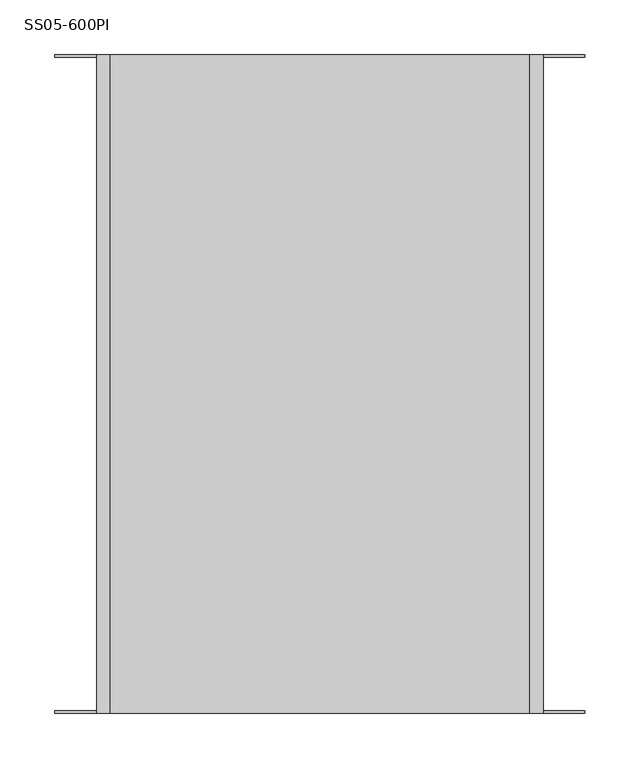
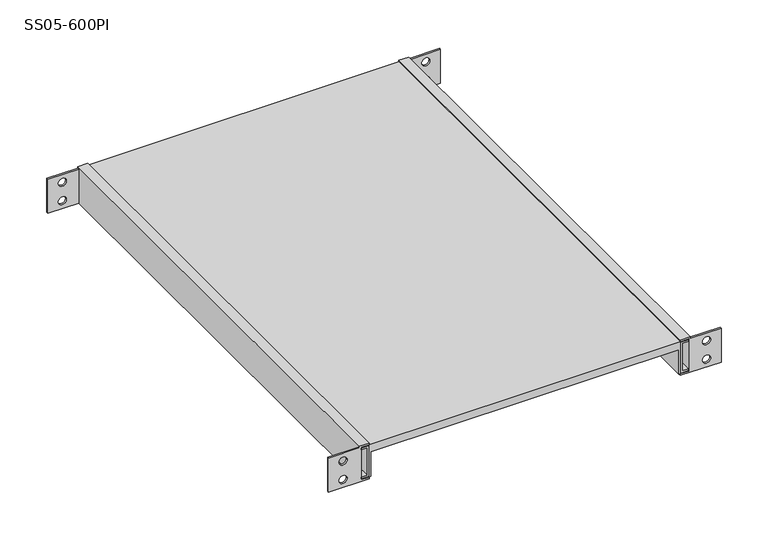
"""IFC4 building model written with IfcOpenShell, lengths in millimetres: proxy geometry, Полки выдвижные : SS05-600PI."""

from ifc_helpers import new_model, si_unit, frame, origin, place, context, project, spatial, polyline, circle_curve, outline, extrude, source, transform, mapped, element, save
from ifc_brep_helpers import plane_surface, revolved_surface, advanced_brep


def ss05_600pi_b2c20814(model_context):
    return source(origin(), model_context, "Body", "SolidModel", [
        extrude(outline(polyline([(44.0, 191.5), (44.0, -191.5), (2.0, -191.5), (2.0, -189.4739095), (34.0, -189.4739095), (34.0, 189.4778277), (2.0, 189.4778277), (2.0, 191.5), (44.0, 191.5)])), frame((0.0, -300.0, 0.0), z_axis=(0.0, 1.0, 0.0), x_axis=(0.0, 0.0, 1.0)), (0.0, 0.0, 1.0), 600.0),
        extrude(outline(polyline([(2.9820525, -191.8921581), (43.0432121, -191.8921581), (43.0432121, -201.5), (41.0432121, -201.5), (41.0432121, -193.8921581), (4.9820525, -193.8921581), (4.9820525, -201.5), (2.9820525, -201.5), (2.9820525, -191.8921581)])), frame((0.0, -300.0, 0.0), z_axis=(0.0, 1.0, 0.0), x_axis=(0.0, 0.0, 1.0)), (0.0, 0.0, 1.0), 600.0),
        extrude(outline(polyline([(2.9820525, 191.8921581), (2.9820525, 201.5), (4.9820525, 201.5), (4.9820525, 193.8921581), (41.0432121, 193.8921581), (41.0432121, 201.5), (43.0432121, 201.5), (43.0432121, 191.8921581), (2.9820525, 191.8921581)])), frame((0.0, -300.0, 0.0), z_axis=(0.0, 1.0, 0.0), x_axis=(0.0, 0.0, 1.0)), (0.0, 0.0, 1.0), 600.0),
        advanced_brep(
        [(-241.5, 298.0, 44.0), (-203.5, 298.0, 44.0), (-203.5, 300.0, 44.0), (-241.5, 300.0, 44.0), (-203.5, -298.0, 44.0), (-241.5, -298.0, 44.0), (-241.5, -300.0, 44.0), (-203.5, -300.0, 44.0), (-241.5, 298.0, 0.0), (-241.5, 300.0, 0.0), (-191.5, 300.0, 0.0), (-191.5, -300.0, 0.0), (-241.5, -300.0, 0.0), (-241.5, -298.0, 0.0), (-203.5, -298.0, 0.0), (-203.5, 298.0, 0.0), (-218.6086696, 298.0, 34.0), (-228.6086696, 298.0, 34.0), (-218.6086696, 298.0, 10.0), (-228.6086696, 298.0, 10.0), (-203.5, 300.0, 46.0), (-191.5, 300.0, 46.0), (-191.5, 300.0, 44.0), (-201.5, 300.0, 44.0), (-201.5, 300.0, 2.0), (-191.5, 300.0, 2.0), (-228.6086696, 300.0, 34.0), (-218.6086696, 300.0, 34.0), (-228.6086696, 300.0, 10.0), (-218.6086696, 300.0, 10.0), (-228.6086696, -298.0, 34.0), (-218.6086696, -298.0, 34.0), (-228.6086696, -298.0, 10.0), (-218.6086696, -298.0, 10.0), (-191.5, -300.0, 2.0), (-201.5, -300.0, 2.0), (-201.5, -300.0, 44.0), (-191.5, -300.0, 44.0), (-191.5, -300.0, 46.0), (-203.5, -300.0, 46.0), (-218.6086696, -300.0, 34.0), (-228.6086696, -300.0, 34.0), (-218.6086696, -300.0, 10.0), (-228.6086696, -300.0, 10.0)],
        [
            (0, 1),
            (1, 2),
            (2, 3),
            (3, 0),
            (4, 5),
            (5, 6),
            (6, 7),
            (7, 4),
            (8, 9),
            (9, 10),
            (10, 11),
            (11, 12),
            (12, 13),
            (13, 14),
            (14, 15),
            (15, 8),
            (0, 8),
            (15, 1),
            (16, 17, circle_curve(frame((-223.6086696, 298.0, 34.0), z_axis=(0.0, 1.0, 0.0), x_axis=(1.0, 0.0, 0.0)), 5.0)),
            (17, 16, circle_curve(frame((-223.6086696, 298.0, 34.0), z_axis=(0.0, 1.0, 0.0), x_axis=(1.0, 0.0, 0.0)), 5.0)),
            (18, 19, circle_curve(frame((-223.6086696, 298.0, 10.0), z_axis=(0.0, 1.0, 0.0), x_axis=(1.0, 0.0, 0.0)), 5.0)),
            (19, 18, circle_curve(frame((-223.6086696, 298.0, 10.0), z_axis=(0.0, 1.0, 0.0), x_axis=(1.0, 0.0, 0.0)), 5.0)),
            (2, 20),
            (20, 21),
            (21, 22),
            (22, 23),
            (23, 24),
            (24, 25),
            (25, 10),
            (9, 3),
            (26, 27, circle_curve(frame((-223.6086696, 300.0, 34.0), z_axis=(0.0, -1.0, 0.0), x_axis=(1.0, 0.0, 0.0)), 5.0)),
            (27, 26, circle_curve(frame((-223.6086696, 300.0, 34.0), z_axis=(0.0, -1.0, 0.0), x_axis=(1.0, 0.0, 0.0)), 5.0)),
            (28, 29, circle_curve(frame((-223.6086696, 300.0, 10.0), z_axis=(0.0, -1.0, 0.0), x_axis=(1.0, 0.0, 0.0)), 5.0)),
            (29, 28, circle_curve(frame((-223.6086696, 300.0, 10.0), z_axis=(0.0, -1.0, 0.0), x_axis=(1.0, 0.0, 0.0)), 5.0)),
            (4, 14),
            (13, 5),
            (30, 31, circle_curve(frame((-223.6086696, -298.0, 34.0), z_axis=(0.0, -1.0, 0.0), x_axis=(1.0, 0.0, 0.0)), 5.0)),
            (31, 30, circle_curve(frame((-223.6086696, -298.0, 34.0), z_axis=(0.0, -1.0, 0.0), x_axis=(1.0, 0.0, 0.0)), 5.0)),
            (32, 33, circle_curve(frame((-223.6086696, -298.0, 10.0), z_axis=(0.0, -1.0, 0.0), x_axis=(1.0, 0.0, 0.0)), 5.0)),
            (33, 32, circle_curve(frame((-223.6086696, -298.0, 10.0), z_axis=(0.0, -1.0, 0.0), x_axis=(1.0, 0.0, 0.0)), 5.0)),
            (12, 6),
            (11, 34),
            (34, 35),
            (35, 36),
            (36, 37),
            (37, 38),
            (38, 39),
            (39, 7),
            (40, 41, circle_curve(frame((-223.6086696, -300.0, 34.0), z_axis=(0.0, 1.0, 0.0), x_axis=(1.0, 0.0, 0.0)), 5.0)),
            (41, 40, circle_curve(frame((-223.6086696, -300.0, 34.0), z_axis=(0.0, 1.0, 0.0), x_axis=(1.0, 0.0, 0.0)), 5.0)),
            (42, 43, circle_curve(frame((-223.6086696, -300.0, 10.0), z_axis=(0.0, 1.0, 0.0), x_axis=(1.0, 0.0, 0.0)), 5.0)),
            (43, 42, circle_curve(frame((-223.6086696, -300.0, 10.0), z_axis=(0.0, 1.0, 0.0), x_axis=(1.0, 0.0, 0.0)), 5.0)),
            (37, 22),
            (21, 38),
            (20, 39),
            (25, 34),
            (24, 35),
            (23, 36),
            (26, 17),
            (16, 27),
            (30, 41),
            (40, 31),
            (28, 19),
            (18, 29),
            (32, 43),
            (42, 33),
        ],
        [
            plane_surface(frame((-203.5, 298.0, 44.0), z_axis=(0.0, 0.0, 1.0), x_axis=(1.0, 0.0, 0.0))),
            plane_surface(frame((-203.5, 298.0, 0.0), z_axis=(0.0, 0.0, -1.0), x_axis=(-1.0, 0.0, 0.0))),
            plane_surface(frame((-241.5, 298.0, 44.0), z_axis=(0.0, -1.0, 0.0), x_axis=(0.0, 0.0, -1.0))),
            plane_surface(frame((-203.5, 300.0, 44.0), z_axis=(0.0, 1.0, 0.0), x_axis=(0.0, 0.0, -1.0))),
            plane_surface(frame((-241.5, 300.0, 44.0), z_axis=(-1.0, 0.0, 0.0), x_axis=(0.0, 0.0, -1.0))),
            plane_surface(frame((-203.5, -298.0, 44.0), z_axis=(0.0, 1.0, 0.0), x_axis=(0.0, 0.0, -1.0))),
            plane_surface(frame((-241.5, -298.0, 44.0), z_axis=(-1.0, 0.0, 0.0), x_axis=(0.0, 0.0, -1.0))),
            plane_surface(frame((-241.5, -300.0, 44.0), z_axis=(0.0, -1.0, 0.0), x_axis=(0.0, 0.0, -1.0))),
            plane_surface(frame((-191.5, -300.0, 44.0), z_axis=(1.0, 0.0, 0.0), x_axis=(0.0, 1.0, 0.0))),
            plane_surface(frame((-191.5, -300.0, 46.0), z_axis=(0.0, 0.0, 1.0), x_axis=(0.0, 1.0, 0.0))),
            plane_surface(frame((-203.5, -300.0, 46.0), z_axis=(-1.0, 0.0, 0.0), x_axis=(0.0, 1.0, 0.0))),
            plane_surface(frame((-191.5, -300.0, 0.0), z_axis=(1.0, 0.0, 0.0), x_axis=(0.0, 1.0, 0.0))),
            plane_surface(frame((-191.5, -300.0, 2.0), z_axis=(0.0, 0.0, 1.0), x_axis=(0.0, 1.0, 0.0))),
            plane_surface(frame((-201.5, -300.0, 2.0), z_axis=(1.0, 0.0, 0.0), x_axis=(0.0, 1.0, 0.0))),
            plane_surface(frame((-201.5, -300.0, 44.0), z_axis=(0.0, 0.0, -1.0), x_axis=(0.0, 1.0, 0.0))),
            revolved_surface(polyline([(-218.6086696, 298.0, 34.0), (-218.6086696, 300.0, 34.0)]), (-223.6086696, 300.0, 34.0), (0.0, -1.0, 0.0)),
            revolved_surface(polyline([(-218.6086696, -300.0, 34.0), (-218.6086696, -298.0, 34.0)]), (-223.6086696, 300.0, 34.0), (0.0, -1.0, 0.0)),
            revolved_surface(polyline([(-218.6086696, 298.0, 10.0), (-218.6086696, 300.0, 10.0)]), (-223.6086696, 0.0, 10.0), (0.0, -1.0, 0.0)),
            revolved_surface(polyline([(-218.6086696, -300.0, 10.0), (-218.6086696, -298.0, 10.0)]), (-223.6086696, 0.0, 10.0), (0.0, -1.0, 0.0)),
        ],
        [
            (0, [[1, 2, 3, 4]]),
            (0, [[5, 6, 7, 8]]),
            (1, [[9, 10, 11, 12, 13, 14, 15, 16]]),
            (2, [[-1, 17, -16, 18], [19, 20], [21, 22]]),
            (3, [[-3, 23, 24, 25, 26, 27, 28, 29, -10, 30], [31, 32], [33, 34]]),
            (4, [[-4, -30, -9, -17]]),
            (5, [[-5, 35, -14, 36], [37, 38], [39, 40]]),
            (6, [[-6, -36, -13, 41]]),
            (7, [[-7, -41, -12, 42, 43, 44, 45, 46, 47, 48], [49, 50], [51, 52]]),
            (8, [[-46, 53, -25, 54]]),
            (9, [[-47, -54, -24, 55]]),
            (10, [[-55, -23, -2, -18, -15, -35, -8, -48]]),
            (11, [[-42, -11, -29, 56]]),
            (12, [[-43, -56, -28, 57]]),
            (13, [[-44, -57, -27, 58]]),
            (14, [[-45, -58, -26, -53]]),
            (15, [[59, -19, 60, -31]]),
            (16, [[61, -49, 62, -37]]),
            (15, [[-59, -32, -60, -20]]),
            (16, [[-61, -38, -62, -50]]),
            (17, [[63, -21, 64, -33]]),
            (18, [[65, -51, 66, -39]]),
            (17, [[-63, -34, -64, -22]]),
            (18, [[-65, -40, -66, -52]]),
        ],
    ),
        advanced_brep(
        [(241.5, -298.0, 44.0), (203.5, -298.0, 44.0), (203.5, -300.0, 44.0), (241.5, -300.0, 44.0), (241.5, 300.0, 44.0), (203.5, 300.0, 44.0), (203.5, 298.0, 44.0), (241.5, 298.0, 44.0), (241.5, -298.0, 0.0), (241.5, -300.0, 0.0), (191.5, -300.0, 0.0), (191.5, 300.0, 0.0), (241.5, 300.0, 0.0), (241.5, 298.0, 0.0), (203.5, 298.0, 0.0), (203.5, -298.0, 0.0), (191.5, 300.0, 2.0), (201.5, 300.0, 2.0), (201.5, 300.0, 44.0), (191.5, 300.0, 44.0), (191.5, 300.0, 46.0), (203.5, 300.0, 46.0), (218.6086696, 300.0, 34.0), (228.6086696, 300.0, 34.0), (218.6086696, 300.0, 10.0), (228.6086696, 300.0, 10.0), (203.5, -300.0, 46.0), (191.5, -300.0, 46.0), (191.5, -300.0, 44.0), (201.5, -300.0, 44.0), (201.5, -300.0, 2.0), (191.5, -300.0, 2.0), (228.6086696, -300.0, 34.0), (218.6086696, -300.0, 34.0), (228.6086696, -300.0, 10.0), (218.6086696, -300.0, 10.0), (218.6086696, -298.0, 34.0), (228.6086696, -298.0, 34.0), (218.6086696, -298.0, 10.0), (228.6086696, -298.0, 10.0), (228.6086696, 298.0, 34.0), (218.6086696, 298.0, 34.0), (228.6086696, 298.0, 10.0), (218.6086696, 298.0, 10.0)],
        [
            (0, 1),
            (1, 2),
            (2, 3),
            (3, 0),
            (4, 5),
            (5, 6),
            (6, 7),
            (7, 4),
            (8, 9),
            (9, 10),
            (10, 11),
            (11, 12),
            (12, 13),
            (13, 14),
            (14, 15),
            (15, 8),
            (4, 12),
            (11, 16),
            (16, 17),
            (17, 18),
            (18, 19),
            (19, 20),
            (20, 21),
            (21, 5),
            (22, 23, circle_curve(frame((223.6086696, 300.0, 34.0), z_axis=(0.0, -1.0, 0.0), x_axis=(1.0, 0.0, 0.0)), 5.0)),
            (23, 22, circle_curve(frame((223.6086696, 300.0, 34.0), z_axis=(0.0, -1.0, 0.0), x_axis=(1.0, 0.0, 0.0)), 5.0)),
            (24, 25, circle_curve(frame((223.6086696, 300.0, 10.0), z_axis=(0.0, -1.0, 0.0), x_axis=(1.0, 0.0, 0.0)), 5.0)),
            (25, 24, circle_curve(frame((223.6086696, 300.0, 10.0), z_axis=(0.0, -1.0, 0.0), x_axis=(1.0, 0.0, 0.0)), 5.0)),
            (2, 26),
            (26, 27),
            (27, 28),
            (28, 29),
            (29, 30),
            (30, 31),
            (31, 10),
            (9, 3),
            (32, 33, circle_curve(frame((223.6086696, -300.0, 34.0), z_axis=(0.0, 1.0, 0.0), x_axis=(1.0, 0.0, 0.0)), 5.0)),
            (33, 32, circle_curve(frame((223.6086696, -300.0, 34.0), z_axis=(0.0, 1.0, 0.0), x_axis=(1.0, 0.0, 0.0)), 5.0)),
            (34, 35, circle_curve(frame((223.6086696, -300.0, 10.0), z_axis=(0.0, 1.0, 0.0), x_axis=(1.0, 0.0, 0.0)), 5.0)),
            (35, 34, circle_curve(frame((223.6086696, -300.0, 10.0), z_axis=(0.0, 1.0, 0.0), x_axis=(1.0, 0.0, 0.0)), 5.0)),
            (0, 8),
            (15, 1),
            (36, 37, circle_curve(frame((223.6086696, -298.0, 34.0), z_axis=(0.0, -1.0, 0.0), x_axis=(1.0, 0.0, 0.0)), 5.0)),
            (37, 36, circle_curve(frame((223.6086696, -298.0, 34.0), z_axis=(0.0, -1.0, 0.0), x_axis=(1.0, 0.0, 0.0)), 5.0)),
            (38, 39, circle_curve(frame((223.6086696, -298.0, 10.0), z_axis=(0.0, -1.0, 0.0), x_axis=(1.0, 0.0, 0.0)), 5.0)),
            (39, 38, circle_curve(frame((223.6086696, -298.0, 10.0), z_axis=(0.0, -1.0, 0.0), x_axis=(1.0, 0.0, 0.0)), 5.0)),
            (6, 14),
            (13, 7),
            (40, 41, circle_curve(frame((223.6086696, 298.0, 34.0), z_axis=(0.0, 1.0, 0.0), x_axis=(1.0, 0.0, 0.0)), 5.0)),
            (41, 40, circle_curve(frame((223.6086696, 298.0, 34.0), z_axis=(0.0, 1.0, 0.0), x_axis=(1.0, 0.0, 0.0)), 5.0)),
            (42, 43, circle_curve(frame((223.6086696, 298.0, 10.0), z_axis=(0.0, 1.0, 0.0), x_axis=(1.0, 0.0, 0.0)), 5.0)),
            (43, 42, circle_curve(frame((223.6086696, 298.0, 10.0), z_axis=(0.0, 1.0, 0.0), x_axis=(1.0, 0.0, 0.0)), 5.0)),
            (28, 19),
            (18, 29),
            (17, 30),
            (16, 31),
            (21, 26),
            (20, 27),
            (36, 33),
            (32, 37),
            (22, 41),
            (40, 23),
            (38, 35),
            (34, 39),
            (24, 43),
            (42, 25),
        ],
        [
            plane_surface(frame((-203.5, 298.0, 44.0), z_axis=(0.0, 0.0, 1.0), x_axis=(1.0, 0.0, 0.0))),
            plane_surface(frame((-203.5, 298.0, 0.0), z_axis=(0.0, 0.0, -1.0), x_axis=(-1.0, 0.0, 0.0))),
            plane_surface(frame((-203.5, 300.0, 44.0), z_axis=(0.0, 1.0, 0.0), x_axis=(0.0, 0.0, -1.0))),
            plane_surface(frame((-241.5, -300.0, 44.0), z_axis=(0.0, -1.0, 0.0), x_axis=(0.0, 0.0, -1.0))),
            plane_surface(frame((241.5, -298.0, 44.0), z_axis=(0.0, 1.0, 0.0), x_axis=(0.0, 0.0, -1.0))),
            plane_surface(frame((241.5, -300.0, 44.0), z_axis=(1.0, 0.0, 0.0), x_axis=(0.0, 0.0, -1.0))),
            plane_surface(frame((203.5, 298.0, 44.0), z_axis=(0.0, -1.0, 0.0), x_axis=(0.0, 0.0, -1.0))),
            plane_surface(frame((241.5, 298.0, 44.0), z_axis=(1.0, 0.0, 0.0), x_axis=(0.0, 0.0, -1.0))),
            plane_surface(frame((191.5, -300.0, 44.0), z_axis=(0.0, 0.0, -1.0), x_axis=(0.0, 1.0, 0.0))),
            plane_surface(frame((201.5, -300.0, 44.0), z_axis=(-1.0, 0.0, 0.0), x_axis=(0.0, 1.0, 0.0))),
            plane_surface(frame((201.5, -300.0, 2.0), z_axis=(0.0, 0.0, 1.0), x_axis=(0.0, 1.0, 0.0))),
            plane_surface(frame((191.5, -300.0, 2.0), z_axis=(-1.0, 0.0, 0.0), x_axis=(0.0, 1.0, 0.0))),
            plane_surface(frame((203.5, -300.0, 0.0), z_axis=(1.0, 0.0, 0.0), x_axis=(0.0, 1.0, 0.0))),
            plane_surface(frame((203.5, -300.0, 46.0), z_axis=(0.0, 0.0, 1.0), x_axis=(0.0, 1.0, 0.0))),
            plane_surface(frame((191.5, -300.0, 46.0), z_axis=(-1.0, 0.0, 0.0), x_axis=(0.0, 1.0, 0.0))),
            revolved_surface(polyline([(228.6086696, -300.0, 34.0), (228.6086696, -298.0, 34.0)]), (223.6086696, 0.0, 34.0), (0.0, -1.0, 0.0)),
            revolved_surface(polyline([(228.6086696, 298.0, 34.0), (228.6086696, 300.0, 34.0)]), (223.6086696, 0.0, 34.0), (0.0, -1.0, 0.0)),
            revolved_surface(polyline([(228.6086696, -300.0, 10.0), (228.6086696, -298.0, 10.0)]), (223.6086696, 0.0, 10.0), (0.0, -1.0, 0.0)),
            revolved_surface(polyline([(228.6086696, 298.0, 10.0), (228.6086696, 300.0, 10.0)]), (223.6086696, 0.0, 10.0), (0.0, -1.0, 0.0)),
        ],
        [
            (0, [[1, 2, 3, 4]]),
            (0, [[5, 6, 7, 8]]),
            (1, [[9, 10, 11, 12, 13, 14, 15, 16]]),
            (2, [[-5, 17, -12, 18, 19, 20, 21, 22, 23, 24], [25, 26], [27, 28]]),
            (3, [[-3, 29, 30, 31, 32, 33, 34, 35, -10, 36], [37, 38], [39, 40]]),
            (4, [[-1, 41, -16, 42], [43, 44], [45, 46]]),
            (5, [[-4, -36, -9, -41]]),
            (6, [[-7, 47, -14, 48], [49, 50], [51, 52]]),
            (7, [[-8, -48, -13, -17]]),
            (8, [[-32, 53, -21, 54]]),
            (9, [[-33, -54, -20, 55]]),
            (10, [[-34, -55, -19, 56]]),
            (11, [[-35, -56, -18, -11]]),
            (12, [[57, -29, -2, -42, -15, -47, -6, -24]]),
            (13, [[-30, -57, -23, 58]]),
            (14, [[-31, -58, -22, -53]]),
            (15, [[59, -37, 60, -43]]),
            (16, [[61, -49, 62, -25]]),
            (15, [[-59, -44, -60, -38]]),
            (16, [[-61, -26, -62, -50]]),
            (17, [[63, -39, 64, -45]]),
            (18, [[65, -51, 66, -27]]),
            (17, [[-63, -46, -64, -40]]),
            (18, [[-65, -28, -66, -52]]),
        ],
    ),
    ])


if __name__ == "__main__":
    model = new_model("IFC4")
    model_context = context("Model", 3, world=origin())
    ifc_project = project(units=[si_unit("LENGTHUNIT", "METRE", prefix="MILLI")], contexts=[model_context])
    site = spatial("IfcSite", under=ifc_project)
    building = spatial("IfcBuilding", under=site)
    placement = place(None, origin())
    ss05_600pi_shape = ss05_600pi_b2c20814(model_context)
    element("IfcBuildingElementProxy", 1, Name="Полки выдвижные : SS05-600PI", ObjectType="Полки выдвижные : SS05-600PI", at=placement, inside=building, context=model_context, shape_type="MappedRepresentation", body=[
        mapped(ss05_600pi_shape, transform((0.0, 0.0, 0.0), x_axis=(1.0, 0.0, 0.0), y_axis=(0.0, 1.0, 0.0), z_axis=(0.0, 0.0, 1.0))),
    ])
    save(model, "model.ifc")
